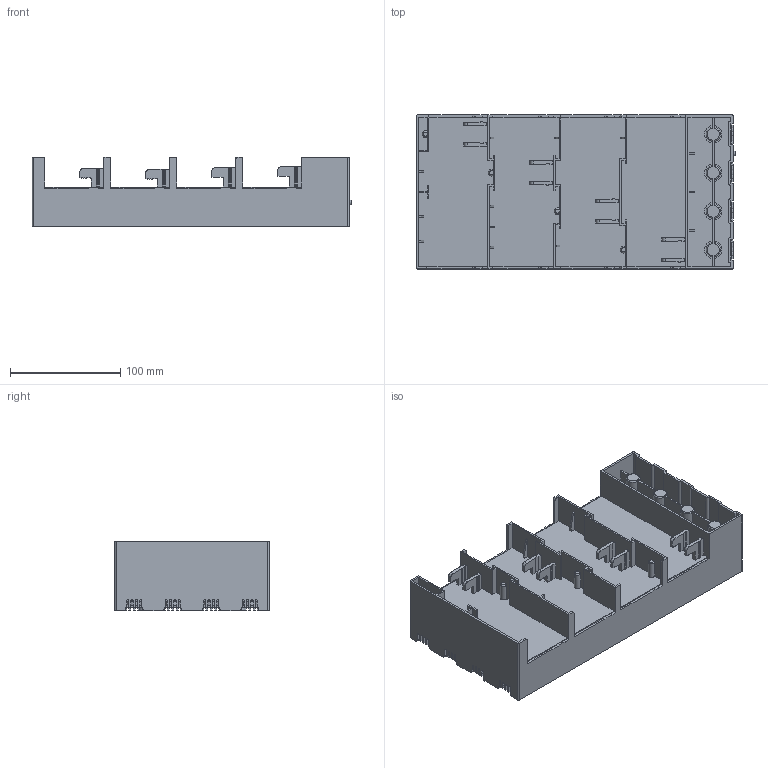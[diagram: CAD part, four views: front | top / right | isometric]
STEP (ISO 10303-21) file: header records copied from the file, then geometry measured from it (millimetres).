
FILE_DESCRIPTION (( 'STEP AP203' ), '1' );
FILE_NAME ('55182.STEP', '2021-08-26T06:52:23', ( '' ), ( '' ), 'SwSTEP 2.0', 'SolidWorks 2017', '' );
FILE_SCHEMA (( 'CONFIG_CONTROL_DESIGN' ));
Products named in the file (2): 55182
Bounding box: 290.5 x 140 x 63 mm (x, y, z)
Volume: 1284240.9 mm3; surface area: 328395 mm2
Topology: 1 solids, 5 shells, 3145 faces, 8914 edges, 5864 vertices
Faces by surface type: plane 2529, cylinder 361, bspline 208, torus 24, cone 23
Full cylindrical faces by diameter (mm): 3.2 x2, 3.3 x8, 4 x1, 5.2 x4, 6 x11, 9 x12, 13 x8, 16 x4, 16.5 x4
Entity records: 120026 total; most frequent: CARTESIAN_POINT 39354, ORIENTED_EDGE 17576, DIRECTION 14855, EDGE_CURVE 8788, LINE 7499, VECTOR 7499, VERTEX_POINT 5837, AXIS2_PLACEMENT_3D 3678
